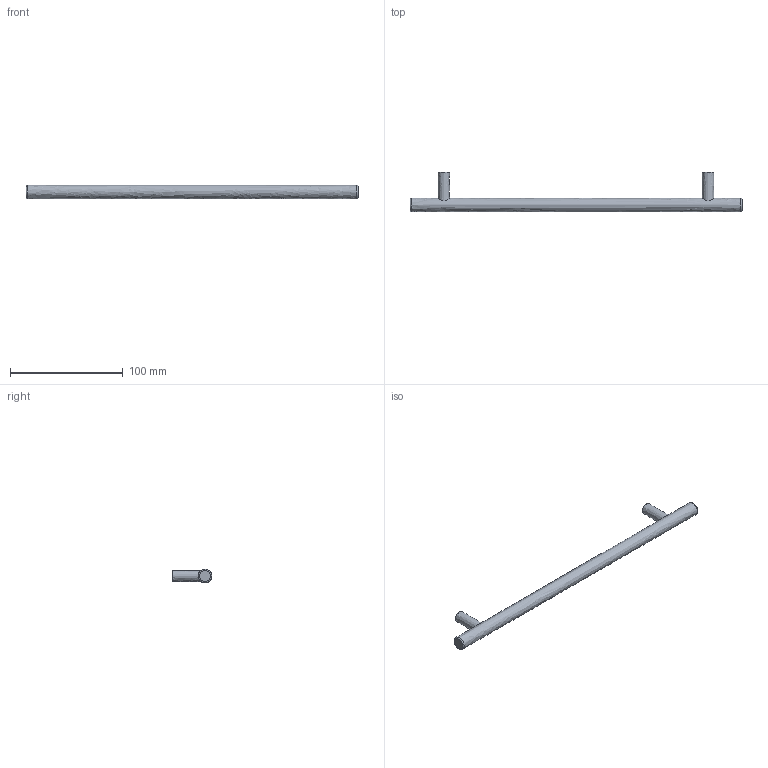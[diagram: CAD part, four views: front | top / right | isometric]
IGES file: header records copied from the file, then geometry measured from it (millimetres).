
Start section: Data from Parasolid IGES Translator 15.0.47, Copyright(c) 2006 Siemens P LM Software. All Rights Reserved.
Global section: file name: 9070742.igs; native system:  By UGS Corp.; preprocessor: XPlus GENERIC/IGES 3.0; author: Noname; organization: Noname; date: 20140123.103857; units: millimetre
Bounding box: 294 x 35 x 12 mm (x, y, z)
Surface area: 12981.3 mm2 (no closed solid volume)
Topology: 0 solids, 0 shells, 13 faces, 42 edges, 34 vertices
Faces by surface type: revolution 7, extrusion 6
